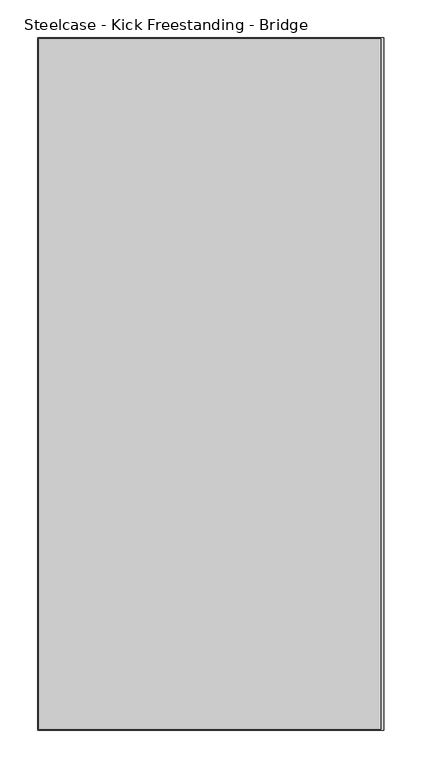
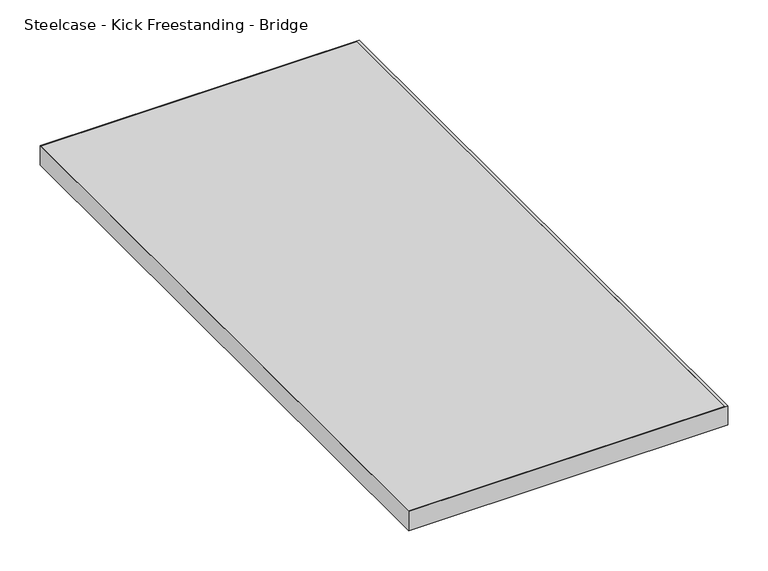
"""IFC4 building model written with IfcOpenShell, lengths in millimetres: furniture geometry, Steelcase - Kick Freestanding - Bridge : 18D x 36W."""

import ifcopenshell
import ifcopenshell.guid

model = None  # the IFC model being written
_history = None  # IfcOwnerHistory: only IFC2X3 demands one
_inside = {}  # id of a spatial element -> (the spatial element, [elements in it])
_under = {}  # id of a project, library or spatial element -> (it, [spatial elements below it])
_declared = {}  # id of a project -> (the project, [libraries it declares])
_typed = {}  # id of a type object -> (the type object, [elements of that type])
_made_of = {}  # id of a material, layer set ... -> (it, [elements and type objects made of it])


def new_model(schema):
    """Start an empty IFC model of exactly this schema.

    Asked for "IFC4X3", IfcOpenShell would pick the latest addendum, in which some entities
    have other attributes; the version numbers below select the first issue.
    IFC2X3 requires an IfcOwnerHistory on every rooted entity: one is made here for all.
    """
    global model, _history
    if schema == "IFC4X3":
        model = ifcopenshell.file(schema_version=(4, 3, 0, 0))
    else:
        model = ifcopenshell.file(schema=schema)
    _inside.clear()
    _under.clear()
    _declared.clear()
    _typed.clear()
    _made_of.clear()
    _history = None
    if model.schema == "IFC2X3":
        org = make("IfcOrganization", Name="unknown")
        user = make(
            "IfcPersonAndOrganization",
            ThePerson=make("IfcPerson", FamilyName="unknown"),
            TheOrganization=org,
        )
        app = make(
            "IfcApplication",
            ApplicationDeveloper=org,
            Version="unknown",
            ApplicationFullName="unknown",
            ApplicationIdentifier="unknown",
        )
        _history = make(
            "IfcOwnerHistory",
            OwningUser=user,
            OwningApplication=app,
            ChangeAction="ADDED",
            CreationDate=0,
        )
    return model


def make(cls, **values):
    """One entity of the class cls with the attributes given. An attribute that is None is left unset."""
    return model.create_entity(
        cls, **{name: value for name, value in values.items() if value is not None}
    )


def rooted(cls, **values):
    """An entity with a GlobalId (a new one), such as an element, a storey or a relation."""
    return make(cls, GlobalId=ifcopenshell.guid.new(), OwnerHistory=_history, **values)


def si_unit(unit_type, name, prefix=None):
    """IfcSIUnit, for example si_unit("LENGTHUNIT", "METRE", prefix="MILLI")."""
    return make("IfcSIUnit", UnitType=unit_type, Prefix=prefix, Name=name)


def assignment(units):
    """IfcUnitAssignment: the units of a project."""
    return None if units is None else make("IfcUnitAssignment", Units=units)


def point(xyz):
    """IfcCartesianPoint."""
    return None if xyz is None else make("IfcCartesianPoint", Coordinates=xyz)


def direction(xyz):
    """IfcDirection."""
    return None if xyz is None else make("IfcDirection", DirectionRatios=xyz)


def frame(location, z_axis=None, x_axis=None):
    """IfcAxis2Placement3D, a coordinate frame: its origin and axes. An axis left out is left unset."""
    return make(
        "IfcAxis2Placement3D",
        Location=point(location),
        Axis=direction(z_axis),
        RefDirection=direction(x_axis),
    )


def origin():
    """The frame at (0, 0, 0) with its axes left unset."""
    return frame((0.0, 0.0, 0.0))


def place(relative_to, where):
    """IfcLocalPlacement: puts the frame where relative to a parent placement (None: the world)."""
    return make(
        "IfcLocalPlacement", PlacementRelTo=relative_to, RelativePlacement=where
    )


def context(
    kind, dimensions, precision=None, world=None, true_north=None, identifier=None
):
    """IfcGeometricRepresentationContext, for example the 3D "Model" context."""
    return make(
        "IfcGeometricRepresentationContext",
        ContextIdentifier=identifier,
        ContextType=kind,
        CoordinateSpaceDimension=dimensions,
        Precision=precision,
        WorldCoordinateSystem=world,
        TrueNorth=true_north,
    )


def project(units=None, contexts=None):
    """IfcProject with its units and contexts."""
    return rooted(
        "IfcProject",
        Name="project",
        RepresentationContexts=contexts,
        UnitsInContext=assignment(units),
    )


def spatial(cls, under=None, at=None, **own):
    """A site, building, storey or space (cls), placed at a placement, below another one or the project."""
    s = rooted(cls, ObjectPlacement=at, **own)
    if under is not None:
        _under.setdefault(under.id(), (under, []))[1].append(s)
    return s


def polyline(points):
    """IfcPolyline through the points."""
    return make("IfcPolyline", Points=[point(p) for p in points])


def outline(outer, holes=None, kind="AREA"):
    """IfcArbitraryClosedProfileDef: a profile drawn as a closed curve; with holes, ...WithVoids."""
    if holes is None:
        return make("IfcArbitraryClosedProfileDef", ProfileType=kind, OuterCurve=outer)
    return make(
        "IfcArbitraryProfileDefWithVoids",
        ProfileType=kind,
        OuterCurve=outer,
        InnerCurves=holes,
    )


def extrude(swept, where, along, depth):
    """IfcExtrudedAreaSolid: the profile swept, set in the frame where, extruded along a direction by depth."""
    return make(
        "IfcExtrudedAreaSolid",
        SweptArea=swept,
        Position=where,
        ExtrudedDirection=direction(along),
        Depth=depth,
    )


def shape(context_of_items, identifier, shape_type, items):
    """IfcShapeRepresentation: the items that make up one representation, for example the "Body"."""
    return make(
        "IfcShapeRepresentation",
        ContextOfItems=context_of_items,
        RepresentationIdentifier=identifier,
        RepresentationType=shape_type,
        Items=items,
    )


def source(mapping_origin, context_of_items, identifier, shape_type, items):
    """IfcRepresentationMap: a shape defined once, which mapped items show again and again."""
    return make(
        "IfcRepresentationMap",
        MappingOrigin=mapping_origin,
        MappedRepresentation=shape(context_of_items, identifier, shape_type, items),
    )


def transform(
    local_origin,
    x_axis=None,
    y_axis=None,
    z_axis=None,
    scale=None,
    scale2=None,
    scale3=None,
    uniform=True,
):
    """IfcCartesianTransformationOperator3D, or its non-uniform kind. x_axis, y_axis, z_axis: its Axis1, 2, 3."""
    if uniform:
        return make(
            "IfcCartesianTransformationOperator3D",
            Axis1=direction(x_axis),
            Axis2=direction(y_axis),
            LocalOrigin=point(local_origin),
            Scale=scale,
            Axis3=direction(z_axis),
        )
    return make(
        "IfcCartesianTransformationOperator3DnonUniform",
        Axis1=direction(x_axis),
        Axis2=direction(y_axis),
        LocalOrigin=point(local_origin),
        Scale=scale,
        Axis3=direction(z_axis),
        Scale2=scale2,
        Scale3=scale3,
    )


def mapped(mapping_source, mapping_target):
    """IfcMappedItem: shows the shape of a source again, moved by a transform."""
    return make(
        "IfcMappedItem", MappingSource=mapping_source, MappingTarget=mapping_target
    )


def made_of(thing, what):
    """Note that an element or type object is made of a material, layer set ...; save() writes the relation."""
    if what is not None:
        _made_of.setdefault(what.id(), (what, []))[1].append(thing)
    return thing


def element(
    cls,
    number,
    at=None,
    inside=None,
    cuts=None,
    type_object=None,
    material=None,
    context=None,
    identifier="Body",
    shape_type=None,
    held_by="IfcProductDefinitionShape",
    body=None,
    shapes=None,
    **own,
):
    """One element of the class cls, such as IfcWall. Its Tag is "e" and its number.

    at: its placement. inside: the storey or other place that contains it. cuts: it is an
    opening in that element (IfcRelVoidsElement). A single representation is given by context,
    identifier, shape_type and body (its items); several are given by shapes. held_by: the class
    of the entity that holds the representations. save() writes the other relations.
    """
    e = rooted(cls, Tag="e%d" % number, ObjectPlacement=at, **own)
    if body is not None:
        shapes = [shape(context, identifier, shape_type, body)]
    if shapes is not None:
        e.Representation = make(held_by, Representations=shapes)
    if inside is not None:
        _inside.setdefault(inside.id(), (inside, []))[1].append(e)
    if cuts is not None:
        rooted(
            "IfcRelVoidsElement", RelatingBuildingElement=cuts, RelatedOpeningElement=e
        )
    if type_object is not None:
        _typed.setdefault(type_object.id(), (type_object, []))[1].append(e)
    return made_of(e, material)


def aggregate(whole, parts):
    """IfcRelAggregates: a whole, such as a stair, and the parts it consists of."""
    return rooted("IfcRelAggregates", RelatingObject=whole, RelatedObjects=parts)


def save(model, path):
    """Write the relations noted so far, then the file.

    IfcRelAggregates (storeys below a building ...), IfcRelContainedInSpatialStructure (elements
    in a storey), IfcRelDefinesByType, IfcRelAssociatesMaterial and IfcRelDeclares: one each for
    every whole, place, type object, material and project.
    """
    for whole, parts in _under.values():
        aggregate(whole, parts)
    for where, things in _inside.values():
        rooted(
            "IfcRelContainedInSpatialStructure",
            RelatedElements=things,
            RelatingStructure=where,
        )
    for kind, things in _typed.values():
        rooted("IfcRelDefinesByType", RelatedObjects=things, RelatingType=kind)
    for what, things in _made_of.values():
        rooted("IfcRelAssociatesMaterial", RelatedObjects=things, RelatingMaterial=what)
    for by, libraries in _declared.values():
        rooted("IfcRelDeclares", RelatingContext=by, RelatedDefinitions=libraries)
    model.write(path)


def steelcase_kick_freestanding_bridge_b50e93a6(model_context):
    return source(origin(), model_context, "Body", "SweptSolid", [
        extrude(outline(polyline([(2616.8176592, -548.0845152), (2616.8176592, -1459.9445152), (2164.8500425, -1459.9445152), (2164.8500425, -548.0845152), (2616.8176592, -548.0845152)])), frame((0.0, 0.0, 682.244), z_axis=(0.0, 0.0, 1.0), x_axis=(1.0, 0.0, 0.0)), (0.0, 0.0, 1.0), 28.956),
        extrude(outline(polyline([(2621.0594425, -546.8145152), (2621.0594425, -1461.2145152), (2163.8594425, -1461.2145152), (2163.8594425, -546.8145152), (2621.0594425, -546.8145152)]), holes=[polyline([(2616.8176592, -548.0845152), (2164.8500425, -548.0845152), (2164.8500425, -1459.9445152), (2616.8176592, -1459.9445152), (2616.8176592, -548.0845152)])]), frame((0.0, 0.0, 682.244), z_axis=(0.0, 0.0, 1.0), x_axis=(1.0, 0.0, 0.0)), (0.0, 0.0, 1.0), 28.956),
    ])


if __name__ == "__main__":
    model = new_model("IFC4")
    model_context = context("Model", 3, world=origin())
    ifc_project = project(units=[si_unit("LENGTHUNIT", "METRE", prefix="MILLI")], contexts=[model_context])
    site = spatial("IfcSite", under=ifc_project)
    building = spatial("IfcBuilding", under=site)
    placement = place(None, origin())
    steelcase_kick_freestanding_bridge_shape = steelcase_kick_freestanding_bridge_b50e93a6(model_context)
    element("IfcFurniture", 1, ObjectType="Steelcase - Kick Freestanding - Bridge : 18D x 36W", at=placement, inside=building, context=model_context, shape_type="MappedRepresentation", body=[
        mapped(steelcase_kick_freestanding_bridge_shape, transform((0.0, 0.0, 0.0), x_axis=(1.0, 0.0, 0.0), y_axis=(0.0, 1.0, 0.0), z_axis=(0.0, 0.0, 1.0))),
    ])
    save(model, "model.ifc")
